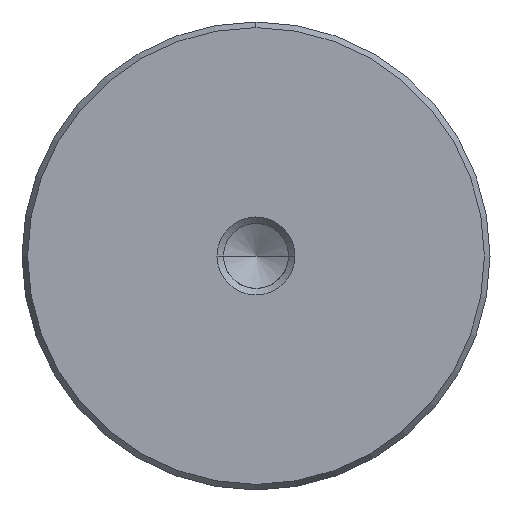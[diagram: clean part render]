
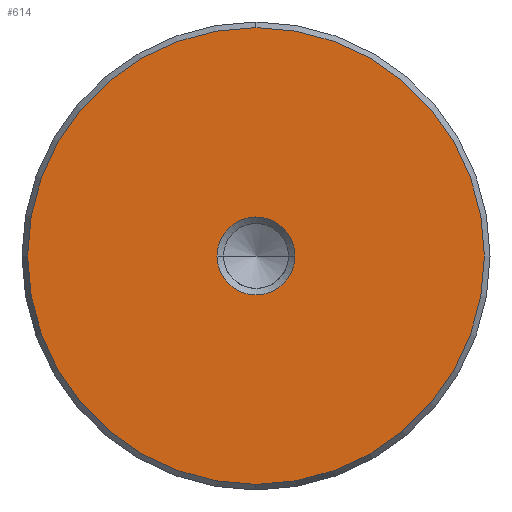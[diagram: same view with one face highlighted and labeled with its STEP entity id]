
A CAD part, left-side view. The second image highlights one B-rep face of the part: STEP entity #614.
In plain terms, the highlighted planar face has unit normal (-1, 0, 0).
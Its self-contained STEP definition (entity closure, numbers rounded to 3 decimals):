
#528=CARTESIAN_POINT('Vertex',(0.,0.,-23.423)) ;
#531=CARTESIAN_POINT('Axis2P3D Location',(0.,0.,0.)) ;
#535=CARTESIAN_POINT('Vertex',(0.,23.423,0.)) ;
#538=CARTESIAN_POINT('Axis2P3D Location',(0.,0.,0.)) ;
#542=CARTESIAN_POINT('Vertex',(0.,0.,23.423)) ;
#564=CARTESIAN_POINT('Axis2P3D Location',(0.,0.,0.)) ;
#568=CARTESIAN_POINT('Vertex',(0.,-23.423,0.)) ;
#571=CARTESIAN_POINT('Axis2P3D Location',(0.,0.,0.)) ;
#585=CARTESIAN_POINT('Axis2P3D Location',(0.,0.,0.)) ;
#596=CARTESIAN_POINT('Axis2P3D Location',(0.,0.,0.)) ;
#600=CARTESIAN_POINT('Vertex',(0.,4.,0.)) ;
#602=CARTESIAN_POINT('Vertex',(0.,-4.,0.)) ;
#605=CARTESIAN_POINT('Axis2P3D Location',(0.,0.,0.)) ;
#532=DIRECTION('Axis2P3D Direction',(1.,0.,-0.)) ;
#539=DIRECTION('Axis2P3D Direction',(1.,0.,-0.)) ;
#565=DIRECTION('Axis2P3D Direction',(1.,0.,-0.)) ;
#572=DIRECTION('Axis2P3D Direction',(1.,0.,-0.)) ;
#586=DIRECTION('Axis2P3D Direction',(1.,0.,-0.)) ;
#587=DIRECTION('Axis2P3D XDirection',(-0.,0.,-1.)) ;
#597=DIRECTION('Axis2P3D Direction',(1.,0.,-0.)) ;
#606=DIRECTION('Axis2P3D Direction',(1.,0.,-0.)) ;
#533=AXIS2_PLACEMENT_3D('Circle Axis2P3D',#531,#532,$) ;
#540=AXIS2_PLACEMENT_3D('Circle Axis2P3D',#538,#539,$) ;
#566=AXIS2_PLACEMENT_3D('Circle Axis2P3D',#564,#565,$) ;
#573=AXIS2_PLACEMENT_3D('Circle Axis2P3D',#571,#572,$) ;
#588=AXIS2_PLACEMENT_3D('Plane Axis2P3D',#585,#586,#587) ;
#598=AXIS2_PLACEMENT_3D('Circle Axis2P3D',#596,#597,$) ;
#607=AXIS2_PLACEMENT_3D('Circle Axis2P3D',#605,#606,$) ;
#591=ORIENTED_EDGE('',*,*,#537,.F.) ;
#592=ORIENTED_EDGE('',*,*,#575,.F.) ;
#593=ORIENTED_EDGE('',*,*,#570,.F.) ;
#594=ORIENTED_EDGE('',*,*,#544,.F.) ;
#611=ORIENTED_EDGE('',*,*,#604,.T.) ;
#612=ORIENTED_EDGE('',*,*,#609,.T.) ;
#613=FACE_BOUND('',#610,.T.) ;
#614=ADVANCED_FACE('720-48x200',(#595,#613),#589,.F.) ;
#534=CIRCLE('generated circle',#533,23.423) ;
#541=CIRCLE('generated circle',#540,23.423) ;
#567=CIRCLE('generated circle',#566,23.423) ;
#574=CIRCLE('generated circle',#573,23.423) ;
#599=CIRCLE('generated circle',#598,4.) ;
#608=CIRCLE('generated circle',#607,4.) ;
#537=EDGE_CURVE('',#529,#536,#534,.T.) ;
#544=EDGE_CURVE('',#536,#543,#541,.T.) ;
#570=EDGE_CURVE('',#543,#569,#567,.T.) ;
#575=EDGE_CURVE('',#569,#529,#574,.T.) ;
#604=EDGE_CURVE('',#601,#603,#599,.T.) ;
#609=EDGE_CURVE('',#603,#601,#608,.T.) ;
#590=EDGE_LOOP('',(#591,#592,#593,#594)) ;
#610=EDGE_LOOP('',(#611,#612)) ;
#595=FACE_OUTER_BOUND('',#590,.T.) ;
#589=PLANE('Plane',#588) ;
#529=VERTEX_POINT('',#528) ;
#536=VERTEX_POINT('',#535) ;
#543=VERTEX_POINT('',#542) ;
#569=VERTEX_POINT('',#568) ;
#601=VERTEX_POINT('',#600) ;
#603=VERTEX_POINT('',#602) ;
